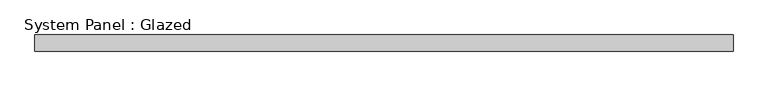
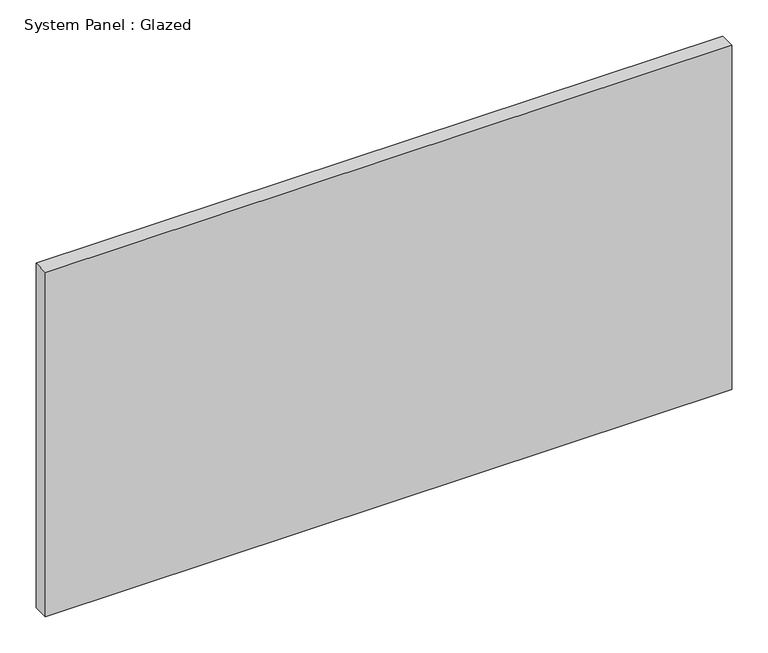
"""IFC4 building model written with IfcOpenShell, lengths in millimetres: plate geometry, System Panel : Glazed."""

from ifc_helpers import new_model, si_unit, origin, origin_with_axes, place, context, project, spatial, polyline, outline, extrude, source, transform, mapped, element, save


def system_panel_glazed_a8ce3bc7(model_context):
    return source(origin(), model_context, "Body", "SweptSolid", [
        extrude(outline(polyline([(550.303141, -44.45), (-550.303141, -44.45), (-550.303141, -19.05), (550.303141, -19.05), (550.303141, -44.45)])), origin_with_axes(), (0.0, 0.0, 1.0), 584.2),
    ])


if __name__ == "__main__":
    model = new_model("IFC4")
    model_context = context("Model", 3, world=origin())
    ifc_project = project(units=[si_unit("LENGTHUNIT", "METRE", prefix="MILLI")], contexts=[model_context])
    site = spatial("IfcSite", under=ifc_project)
    building = spatial("IfcBuilding", under=site)
    placement = place(None, origin())
    system_panel_glazed_shape = system_panel_glazed_a8ce3bc7(model_context)
    element("IfcPlate", 1, ObjectType="System Panel : Glazed", at=placement, inside=building, context=model_context, shape_type="MappedRepresentation", body=[
        mapped(system_panel_glazed_shape, transform((0.0, 0.0, 0.0), x_axis=(1.0, 0.0, 0.0), y_axis=(0.0, 1.0, 0.0), z_axis=(0.0, 0.0, 1.0))),
    ])
    save(model, "model.ifc")
